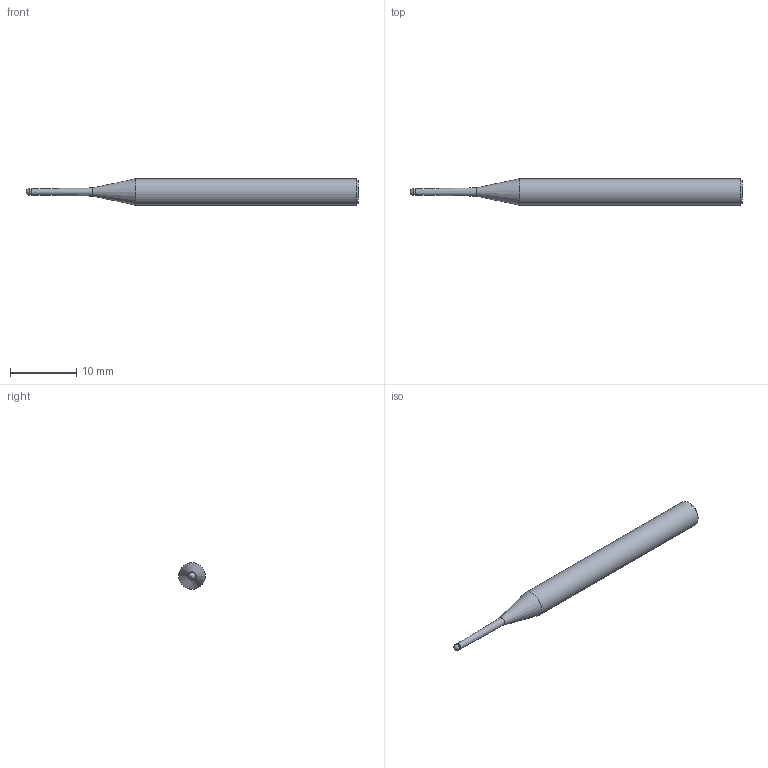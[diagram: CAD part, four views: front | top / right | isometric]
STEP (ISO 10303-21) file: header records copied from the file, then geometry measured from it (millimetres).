
FILE_DESCRIPTION(/* description */ (''),/* implementation_level */ '2;1');
FILE_NAME(/* name */ 'HGXPB2010-10-T0.9 0450.stp',/* time_stamp */ '2026-01-22T08:56:03+08:00',/* author */ (''),/* organization */ (''),/* preprocessor_version */ 'ST-DEVELOPER v16',/* originating_system */ 'SIEMENS PLM Software NX 10.0',/* authorisation */ '');
FILE_SCHEMA (('CONFIG_CONTROL_DESIGN'));
Length unit declared in the file: millimetre
Products named in the file (1): HGXPB2010-10-T0.9 0450_x_t
Bounding box: 50 x 4 x 4 mm (x, y, z)
Volume: 468.2 mm3; surface area: 520.9 mm2
Topology: 1 solids, 1 shells, 9 faces, 17 edges, 10 vertices
Faces by surface type: cylinder 3, cone 3, plane 2, sphere 1
Full cylindrical faces by diameter (mm): 0.95 x1, 1 x1, 4 x1
Entity records: 258 total; most frequent: DIRECTION 36, CARTESIAN_POINT 26, AXIS2_PLACEMENT_3D 18, EDGE_LOOP 16, ORIENTED_EDGE 16, FACE_BOUND 14, ADVANCED_FACE 9, VERTEX_POINT 8
